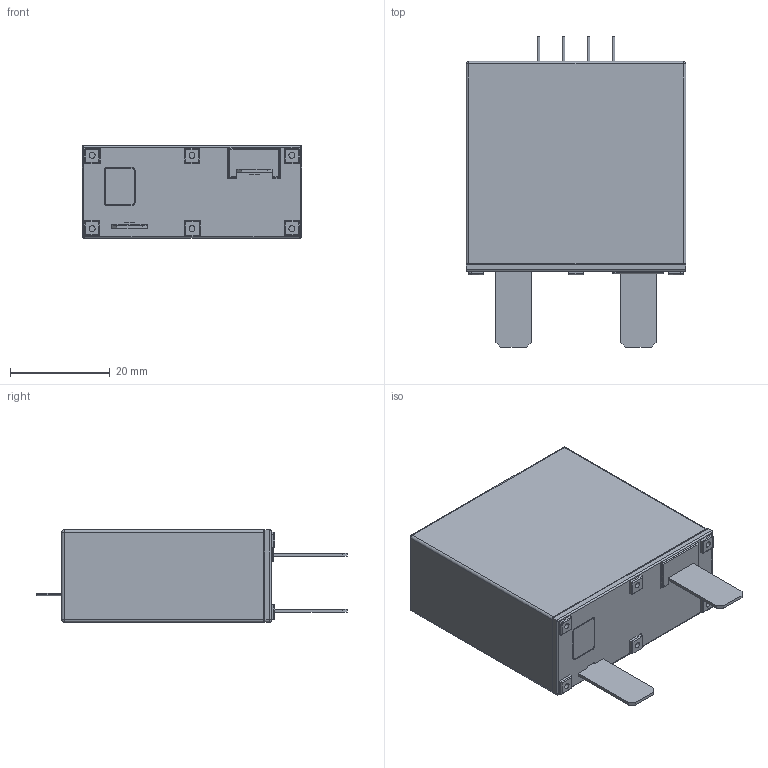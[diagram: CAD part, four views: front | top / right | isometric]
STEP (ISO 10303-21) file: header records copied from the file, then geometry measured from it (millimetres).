
FILE_DESCRIPTION((''),'2;1');
FILE_NAME('TFMOV40K-18-2IT-20200620','2020-06-24T',('set'),(''),'PRO/ENGINEER BY PARAMETRIC TECHNOLOGY CORPORATION, 2012310','PRO/ENGINEER BY PARAMETRIC TECHNOLOGY CORPORATION, 2012310','');
FILE_SCHEMA(('CONFIG_CONTROL_DESIGN','SHAPE_APPEARANCE_LAYERS_GROUPS'));
Length unit declared in the file: millimetre
Products named in the file (1): TFMOV40K-18-2IT-20200620
Bounding box: 44 x 62.2 x 18.5 mm (x, y, z)
Volume: 34285.9 mm3; surface area: 7651.1 mm2
Topology: 1 solids, 2 shells, 215 faces, 502 edges, 310 vertices
Faces by surface type: plane 111, cylinder 90, torus 6, sphere 6, bspline 2
Entity records: 8005 total; most frequent: CARTESIAN_POINT 1321, ORIENTED_EDGE 1004, DIRECTION 1002, PRESENTATION_STYLE_ASSIGNMENT 521, STYLED_ITEM 503, CURVE_STYLE 502, EDGE_CURVE 502, VECTOR 348
